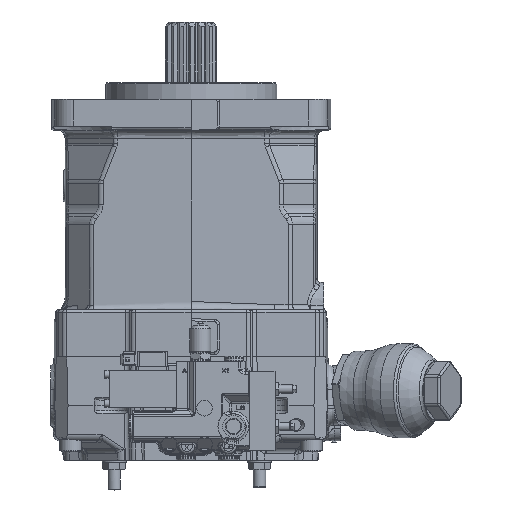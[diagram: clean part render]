
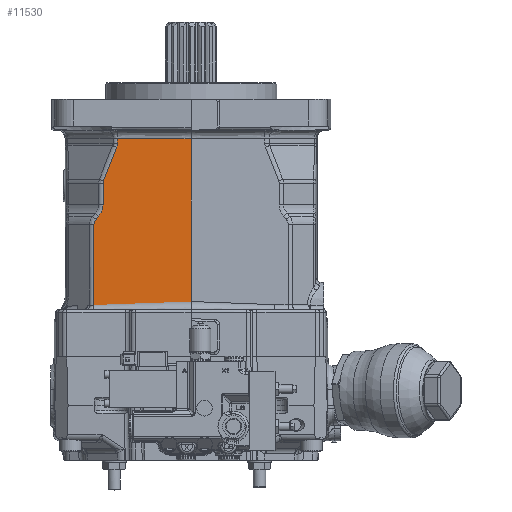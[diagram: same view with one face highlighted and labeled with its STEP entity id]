
A CAD part, top view. The second image highlights one B-rep face of the part: STEP entity #11530.
In plain terms, the highlighted planar face has unit normal (-0.026, 0, 1).
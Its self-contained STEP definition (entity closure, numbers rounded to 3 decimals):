
#386=(
BOUNDED_CURVE()
B_SPLINE_CURVE(3,(#69484,#69485,#69486,#69487,#69488,#69489,#69490),.UNSPECIFIED.,
 .F.,.F.)
B_SPLINE_CURVE_WITH_KNOTS((4,3,4),(0.,0.333,1.),.UNSPECIFIED.)
CURVE()
GEOMETRIC_REPRESENTATION_ITEM()
RATIONAL_B_SPLINE_CURVE((1.,1.,1.,1.,1.,1.,1.))
REPRESENTATION_ITEM('')
);
#387=(
BOUNDED_CURVE()
B_SPLINE_CURVE(2,(#69492,#69493,#69494),.UNSPECIFIED.,.F.,.F.)
B_SPLINE_CURVE_WITH_KNOTS((3,3),(0.,1.),.UNSPECIFIED.)
CURVE()
GEOMETRIC_REPRESENTATION_ITEM()
RATIONAL_B_SPLINE_CURVE((1.,1.,1.))
REPRESENTATION_ITEM('')
);
#1738=FACE_OUTER_BOUND('',#17233,.T.);
#3432=ELLIPSE('',#45518,20.338,14.);
#3433=ELLIPSE('',#45519,14.527,10.);
#3434=ELLIPSE('',#45520,31.96,22.);
#3435=ELLIPSE('',#45521,14.527,10.);
#4876=LINE('',#69430,#7375);
#4886=LINE('',#69466,#7385);
#4887=LINE('',#69470,#7386);
#4888=LINE('',#69474,#7387);
#4889=LINE('',#69478,#7388);
#4890=LINE('',#69482,#7389);
#7375=VECTOR('',#52836,1.);
#7385=VECTOR('',#52858,1.);
#7386=VECTOR('',#52861,1.);
#7387=VECTOR('',#52864,1.);
#7388=VECTOR('',#52867,1.);
#7389=VECTOR('',#52870,1.);
#9326=PLANE('',#45522);
#11530=ADVANCED_FACE('',(#1738),#9326,.F.);
#14003=B_SPLINE_CURVE_WITH_KNOTS('',3,(#69461,#69462,#69463,#69464),.UNSPECIFIED.,
 .F.,.F.,(4,4),(0.,1.),.UNSPECIFIED.);
#17233=EDGE_LOOP('',(#23602,#23603,#23604,#23605,#23606,#23607,#23608,#23609,
#23610,#23611,#23612,#23613,#23614));
#23602=ORIENTED_EDGE('',*,*,#38018,.T.);
#23603=ORIENTED_EDGE('',*,*,#38032,.T.);
#23604=ORIENTED_EDGE('',*,*,#38033,.T.);
#23605=ORIENTED_EDGE('',*,*,#38034,.T.);
#23606=ORIENTED_EDGE('',*,*,#38035,.T.);
#23607=ORIENTED_EDGE('',*,*,#38036,.T.);
#23608=ORIENTED_EDGE('',*,*,#38037,.T.);
#23609=ORIENTED_EDGE('',*,*,#38038,.T.);
#23610=ORIENTED_EDGE('',*,*,#38039,.T.);
#23611=ORIENTED_EDGE('',*,*,#38040,.T.);
#23612=ORIENTED_EDGE('',*,*,#38041,.T.);
#23613=ORIENTED_EDGE('',*,*,#38042,.T.);
#23614=ORIENTED_EDGE('',*,*,#38043,.T.);
#33322=VERTEX_POINT('',#69406);
#33332=VERTEX_POINT('',#69429);
#33344=VERTEX_POINT('',#69465);
#33345=VERTEX_POINT('',#69467);
#33346=VERTEX_POINT('',#69469);
#33347=VERTEX_POINT('',#69471);
#33348=VERTEX_POINT('',#69473);
#33349=VERTEX_POINT('',#69475);
#33350=VERTEX_POINT('',#69477);
#33351=VERTEX_POINT('',#69479);
#33352=VERTEX_POINT('',#69481);
#33353=VERTEX_POINT('',#69483);
#33354=VERTEX_POINT('',#69491);
#38018=EDGE_CURVE('',#33322,#33332,#4876,.T.);
#38032=EDGE_CURVE('',#33332,#33344,#14003,.T.);
#38033=EDGE_CURVE('',#33344,#33345,#4886,.T.);
#38034=EDGE_CURVE('',#33345,#33346,#3432,.T.);
#38035=EDGE_CURVE('',#33346,#33347,#4887,.T.);
#38036=EDGE_CURVE('',#33347,#33348,#3433,.T.);
#38037=EDGE_CURVE('',#33348,#33349,#4888,.T.);
#38038=EDGE_CURVE('',#33349,#33350,#3434,.T.);
#38039=EDGE_CURVE('',#33350,#33351,#4889,.T.);
#38040=EDGE_CURVE('',#33351,#33352,#3435,.T.);
#38041=EDGE_CURVE('',#33352,#33353,#4890,.T.);
#38042=EDGE_CURVE('',#33353,#33354,#386,.T.);
#38043=EDGE_CURVE('',#33354,#33322,#387,.T.);
#45518=AXIS2_PLACEMENT_3D('',#69468,#52859,#52860);
#45519=AXIS2_PLACEMENT_3D('',#69472,#52862,#52863);
#45520=AXIS2_PLACEMENT_3D('',#69476,#52865,#52866);
#45521=AXIS2_PLACEMENT_3D('',#69480,#52868,#52869);
#45522=AXIS2_PLACEMENT_3D('',#69495,#52871,#52872);
#52836=DIRECTION('',(0.,1.,0.));
#52858=DIRECTION('',(0.,-1.,0.));
#52859=DIRECTION('',(0.026,0.,-1.));
#52860=DIRECTION('',(-1.,0.,-0.026));
#52861=DIRECTION('',(-0.363,-0.932,-0.009));
#52862=DIRECTION('',(-0.026,0.,1.));
#52863=DIRECTION('',(1.,0.,0.026));
#52864=DIRECTION('',(0.,-1.,0.));
#52865=DIRECTION('',(0.026,0.,-1.));
#52866=DIRECTION('',(-1.,0.,-0.026));
#52867=DIRECTION('',(-0.642,-0.766,-0.017));
#52868=DIRECTION('',(-0.026,0.,1.));
#52869=DIRECTION('',(1.,0.,0.026));
#52870=DIRECTION('',(0.,-1.,0.));
#52871=DIRECTION('',(0.026,0.,-1.));
#52872=DIRECTION('',(-1.,0.,-0.026));
#69406=CARTESIAN_POINT('',(0.061,52.99,113.));
#69429=CARTESIAN_POINT('',(0.061,210.,113.));
#69430=CARTESIAN_POINT('',(0.061,35.,113.));
#69461=CARTESIAN_POINT('',(0.061,210.,113.));
#69462=CARTESIAN_POINT('',(-23.634,209.99,112.38));
#69463=CARTESIAN_POINT('',(-47.33,210.109,111.759));
#69464=CARTESIAN_POINT('',(-71.025,210.312,111.139));
#69465=CARTESIAN_POINT('',(-71.025,210.312,111.139));
#69466=CARTESIAN_POINT('',(-71.025,35.,111.139));
#69467=CARTESIAN_POINT('',(-71.025,205.508,111.139));
#69468=CARTESIAN_POINT('',(-91.356,205.508,110.606));
#69469=CARTESIAN_POINT('',(-71.717,201.884,111.12));
#69470=CARTESIAN_POINT('',(-118.667,81.232,109.891));
#69471=CARTESIAN_POINT('',(-84.326,169.482,110.79));
#69472=CARTESIAN_POINT('',(-70.299,166.894,111.158));
#69473=CARTESIAN_POINT('',(-84.821,166.894,110.777));
#69474=CARTESIAN_POINT('',(-84.821,35.,110.777));
#69475=CARTESIAN_POINT('',(-84.821,146.287,110.777));
#69476=CARTESIAN_POINT('',(-116.77,146.287,109.941));
#69477=CARTESIAN_POINT('',(-89.101,135.287,110.665));
#69478=CARTESIAN_POINT('',(-101.641,120.331,110.337));
#69479=CARTESIAN_POINT('',(-91.589,132.321,110.6));
#69480=CARTESIAN_POINT('',(-79.012,127.321,110.929));
#69481=CARTESIAN_POINT('',(-93.534,127.321,110.549));
#69482=CARTESIAN_POINT('',(-93.534,35.,110.549));
#69483=CARTESIAN_POINT('',(-93.534,49.696,110.549));
#69484=CARTESIAN_POINT('',(-93.534,49.696,110.549));
#69485=CARTESIAN_POINT('',(-62.266,49.696,111.368));
#69486=CARTESIAN_POINT('',(-30.998,51.348,112.187));
#69487=CARTESIAN_POINT('',(0.271,53.,113.005));
#69488=CARTESIAN_POINT('',(62.808,56.304,114.643));
#69489=CARTESIAN_POINT('',(125.344,59.608,116.281));
#69490=CARTESIAN_POINT('',(187.881,62.913,117.918));
#69491=CARTESIAN_POINT('',(0.061,52.989,113.));
#69492=CARTESIAN_POINT('',(0.061,52.989,113.));
#69493=CARTESIAN_POINT('',(0.061,52.989,113.));
#69494=CARTESIAN_POINT('',(0.061,52.99,113.));
#69495=CARTESIAN_POINT('',(0.061,35.,113.));
